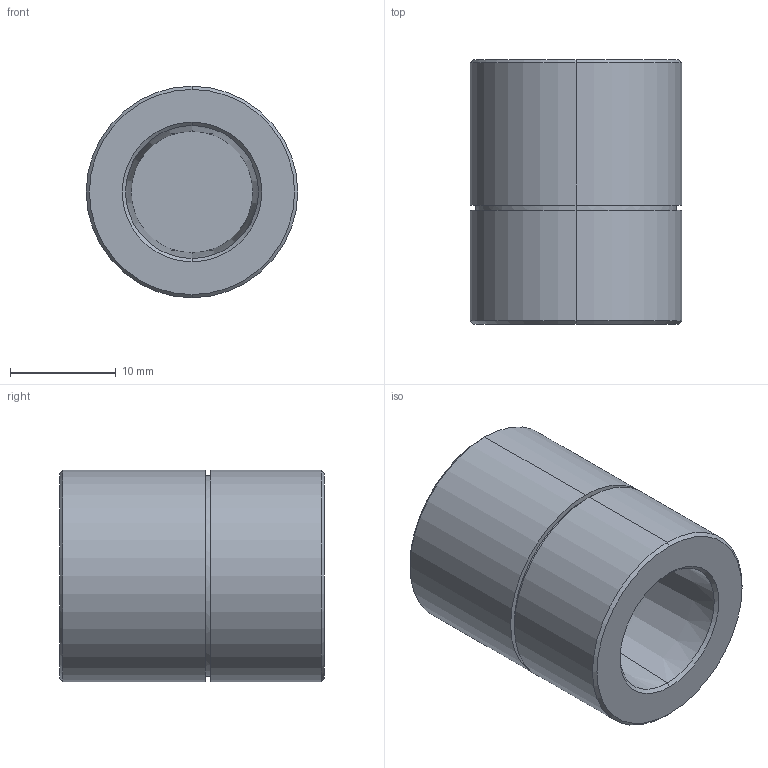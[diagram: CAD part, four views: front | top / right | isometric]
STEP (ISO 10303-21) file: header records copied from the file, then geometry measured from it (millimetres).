
FILE_DESCRIPTION (( 'STEP AP203' ), '1' );
FILE_NAME ('SW-PB-F8-T.STEP', '2022-04-15T06:53:50', ( '' ), ( '' ), 'SwSTEP 2.0', 'SolidWorks 2015', '' );
FILE_SCHEMA (( 'CONFIG_CONTROL_DESIGN' ));
Length unit declared in the file: millimetre
Products named in the file (2): SW-PB-F8-T
Bounding box: 20 x 25 x 20 mm (x, y, z)
Volume: 6575.8 mm3; surface area: 2626.2 mm2
Topology: 1 solids, 1 shells, 19 faces, 36 edges, 22 vertices
Faces by surface type: cone 8, cylinder 6, plane 5
Entity records: 727 total; most frequent: CARTESIAN_POINT 179, DIRECTION 92, ORIENTED_EDGE 72, AXIS2_PLACEMENT_3D 39, EDGE_CURVE 36, EDGE_LOOP 22, VERTEX_POINT 22, FACE_OUTER_BOUND 19
